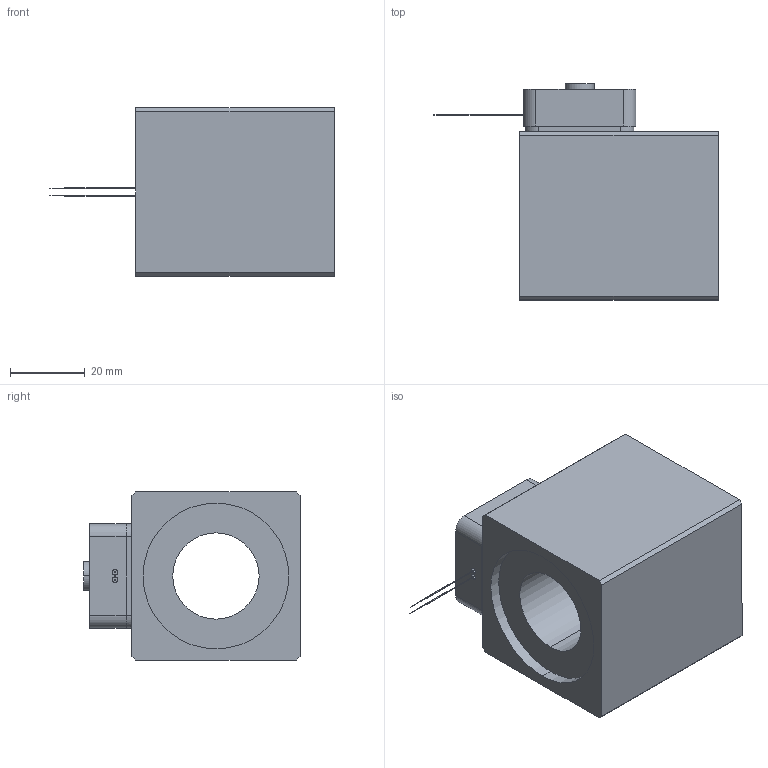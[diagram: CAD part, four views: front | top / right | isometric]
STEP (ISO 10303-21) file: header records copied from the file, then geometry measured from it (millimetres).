
FILE_DESCRIPTION (( 'STEP AP214' ), '1' );
FILE_NAME ('MLS45_23x50-M47.STEP', '2015-07-17T05:32:14', ( '' ), ( '' ), 'SwSTEP 2.0', 'SolidWorks 2014', '' );
FILE_SCHEMA (( 'AUTOMOTIVE_DESIGN' ));
Length unit declared in the file: millimetre
Products named in the file (2): MLS45_23x50-M47
Bounding box: 76 x 57.8 x 45 mm (x, y, z)
Volume: 90536 mm3; surface area: 20380.3 mm2
Topology: 5 solids, 10 shells, 263 faces, 652 edges, 431 vertices
Faces by surface type: plane 177, cylinder 82, cone 2, bspline 2
Entity records: 10674 total; most frequent: CARTESIAN_POINT 1478, DIRECTION 1350, ORIENTED_EDGE 1304, EDGE_CURVE 652, AXIS2_PLACEMENT_3D 451, VECTOR 448, LINE 448, VERTEX_POINT 431
